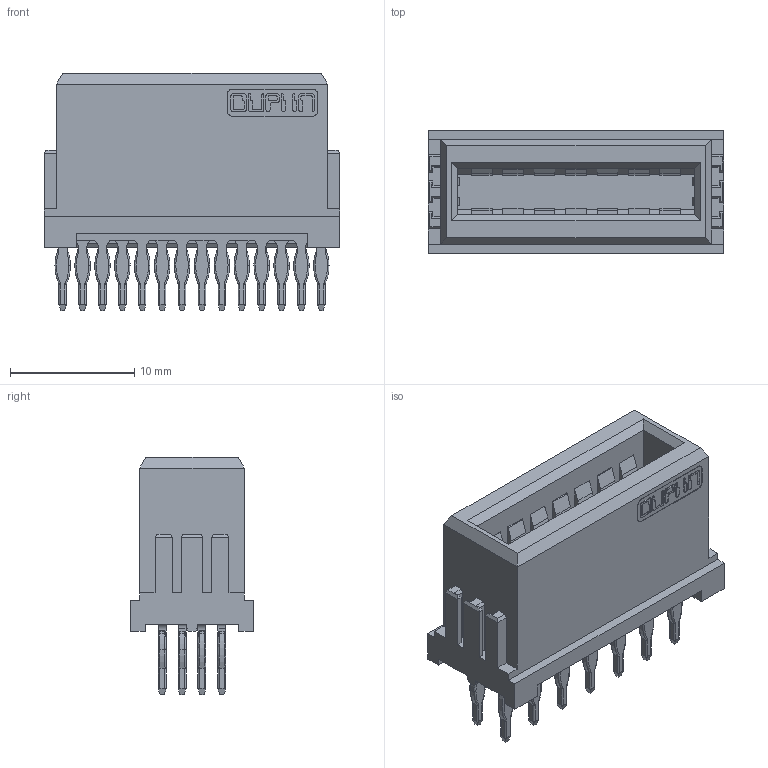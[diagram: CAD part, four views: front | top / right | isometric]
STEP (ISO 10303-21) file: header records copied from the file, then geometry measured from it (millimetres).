
FILE_DESCRIPTION (( 'STEP AP214' ), '1' );
FILE_NAME ('9114-D14CB30PNSA.STEP', '2025-06-10T03:36:39', ( '' ), ( '' ), 'SwSTEP 2.0', 'SolidWorks 2011', '' );
FILE_SCHEMA (( 'AUTOMOTIVE_DESIGN' ));
Length unit declared in the file: millimetre
Products named in the file (1): 9114-D14CB30PNSA
Bounding box: 23.8 x 9.9 x 19.08 mm (x, y, z)
Volume: 1922.8 mm3; surface area: 2403.8 mm2
Topology: 1 solids, 1 shells, 1393 faces, 3736 edges, 2264 vertices
Faces by surface type: plane 577, cylinder 424, bspline 392
Entity records: 62171 total; most frequent: CARTESIAN_POINT 17250, ORIENTED_EDGE 7248, DIRECTION 5468, EDGE_CURVE 3624, VERTEX_POINT 2264, LINE 1992, VECTOR 1992, AXIS2_PLACEMENT_3D 1738
